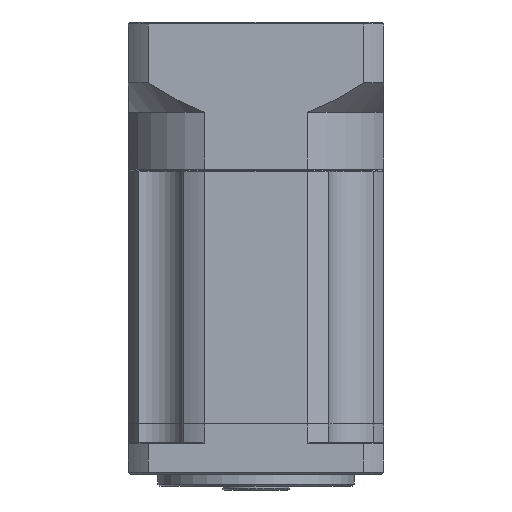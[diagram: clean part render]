
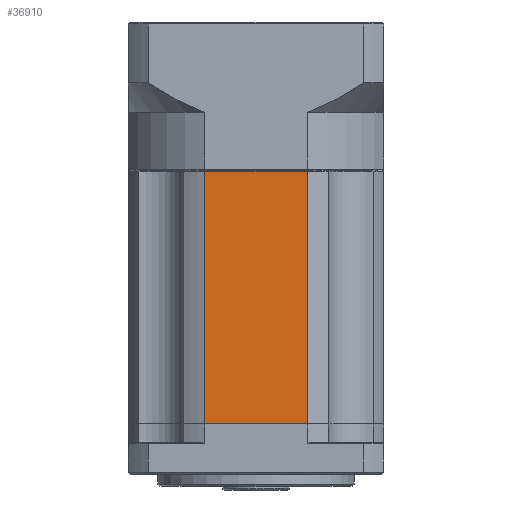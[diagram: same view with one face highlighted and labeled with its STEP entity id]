
A CAD part, front view. The second image highlights one B-rep face of the part: STEP entity #36910.
In plain terms, the highlighted planar face has unit normal (0, -1, 0).
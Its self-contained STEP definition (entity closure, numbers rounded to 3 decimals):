
#457 = LINE ( 'NONE', #5838, #21479 ) ;
#4212 = PLANE ( 'NONE',  #27597 ) ;
#5667 = ORIENTED_EDGE ( 'NONE', *, *, #52318, .T. ) ;
#5838 = CARTESIAN_POINT ( 'NONE',  ( 7.22, -33.003, 46.103 ) ) ;
#9567 = ORIENTED_EDGE ( 'NONE', *, *, #48971, .T. ) ;
#12002 = CARTESIAN_POINT ( 'NONE',  ( 33.2, -33.003, -18.197 ) ) ;
#12075 = VECTOR ( 'NONE', #55846, 1000. ) ;
#15379 = CARTESIAN_POINT ( 'NONE',  ( 7.22, -33.003, 45.903 ) ) ;
#18441 = VERTEX_POINT ( 'NONE', #54230 ) ;
#21479 = VECTOR ( 'NONE', #36934, 1000. ) ;
#23557 = CARTESIAN_POINT ( 'NONE',  ( 33.2, -33.003, 46.103 ) ) ;
#23847 = EDGE_LOOP ( 'NONE', ( #92274, #5667, #90212, #9567 ) ) ;
#23965 = VERTEX_POINT ( 'NONE', #29324 ) ;
#27597 = AXIS2_PLACEMENT_3D ( 'NONE', #23557, #77508, #31508 ) ;
#29324 = CARTESIAN_POINT ( 'NONE',  ( 7.22, -33.003, 45.903 ) ) ;
#31508 = DIRECTION ( 'NONE',  ( 0., 0., 1. ) ) ;
#32464 = CARTESIAN_POINT ( 'NONE',  ( 33.2, -33.003, -18.197 ) ) ;
#35412 = VERTEX_POINT ( 'NONE', #59372 ) ;
#36910 = ADVANCED_FACE ( 'NONE', ( #60513 ), #4212, .F. ) ;
#36934 = DIRECTION ( 'NONE',  ( 0., 0., -1. ) ) ;
#37627 = VERTEX_POINT ( 'NONE', #12002 ) ;
#38030 = LINE ( 'NONE', #32464, #12075 ) ;
#48251 = VECTOR ( 'NONE', #76277, 1000. ) ;
#48971 = EDGE_CURVE ( 'NONE', #18441, #37627, #38030, .T. ) ;
#50825 = DIRECTION ( 'NONE',  ( 0., 0., -1. ) ) ;
#51730 = EDGE_CURVE ( 'NONE', #23965, #18441, #457, .T. ) ;
#52318 = EDGE_CURVE ( 'NONE', #35412, #23965, #88860, .T. ) ;
#54230 = CARTESIAN_POINT ( 'NONE',  ( 7.22, -33.003, -18.197 ) ) ;
#55846 = DIRECTION ( 'NONE',  ( 1., 0., 0. ) ) ;
#58540 = CARTESIAN_POINT ( 'NONE',  ( 33.2, -33.003, 46.103 ) ) ;
#59372 = CARTESIAN_POINT ( 'NONE',  ( 33.2, -33.003, 45.903 ) ) ;
#60513 = FACE_OUTER_BOUND ( 'NONE', #23847, .T. ) ;
#73453 = EDGE_CURVE ( 'NONE', #35412, #37627, #85817, .T. ) ;
#76277 = DIRECTION ( 'NONE',  ( -1., 0., 0. ) ) ;
#77508 = DIRECTION ( 'NONE',  ( 0., 1., 0. ) ) ;
#83378 = VECTOR ( 'NONE', #50825, 1000. ) ;
#85817 = LINE ( 'NONE', #58540, #83378 ) ;
#88860 = LINE ( 'NONE', #15379, #48251 ) ;
#90212 = ORIENTED_EDGE ( 'NONE', *, *, #51730, .T. ) ;
#92274 = ORIENTED_EDGE ( 'NONE', *, *, #73453, .F. ) ;
